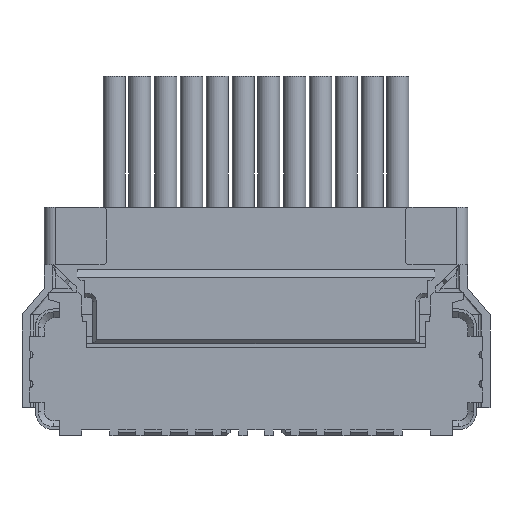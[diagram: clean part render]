
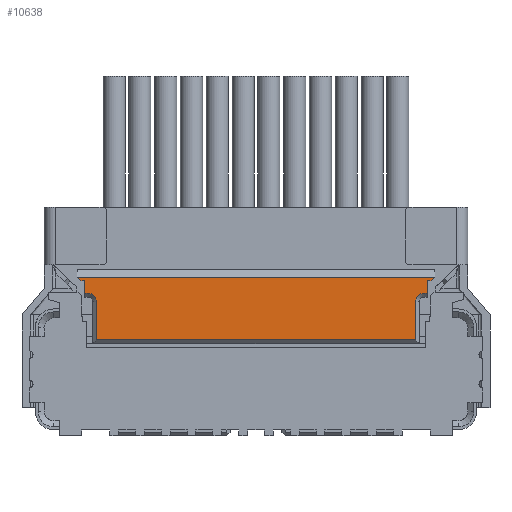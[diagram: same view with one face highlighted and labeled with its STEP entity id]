
A CAD part, front view. The second image highlights one B-rep face of the part: STEP entity #10638.
In plain terms, the highlighted planar face has unit normal (0, -1, 0).
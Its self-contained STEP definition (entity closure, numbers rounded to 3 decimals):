
#171 = CARTESIAN_POINT ( 'NONE',  ( -1.4, 0.05, 1.25 ) ) ;
#186 = AXIS2_PLACEMENT_3D ( 'NONE', #11017, #15336, #2807 ) ;
#359 = CARTESIAN_POINT ( 'NONE',  ( -4.79, 0.05, 0.92 ) ) ;
#488 = DIRECTION ( 'NONE',  ( -1., 0., 0. ) ) ;
#518 = EDGE_CURVE ( 'NONE', #9657, #4556, #2695, .T. ) ;
#741 = ORIENTED_EDGE ( 'NONE', *, *, #12689, .F. ) ;
#754 = LINE ( 'NONE', #2133, #13271 ) ;
#864 = VECTOR ( 'NONE', #5798, 1000. ) ;
#989 = ORIENTED_EDGE ( 'NONE', *, *, #12353, .T. ) ;
#1306 = VERTEX_POINT ( 'NONE', #8684 ) ;
#1750 = EDGE_LOOP ( 'NONE', ( #5956, #17039, #10633, #14980, #17445, #13653, #9650, #17369, #12479, #6977, #989, #741, #5468, #13162 ) ) ;
#2133 = CARTESIAN_POINT ( 'NONE',  ( -0.46, 0.05, 0.92 ) ) ;
#2172 = DIRECTION ( 'NONE',  ( 0., 0., -1. ) ) ;
#2201 = DIRECTION ( 'NONE',  ( 1., 0., 0. ) ) ;
#2412 = VERTEX_POINT ( 'NONE', #8410 ) ;
#2695 = LINE ( 'NONE', #13939, #3156 ) ;
#2807 = DIRECTION ( 'NONE',  ( 0., 0., -1. ) ) ;
#2985 = LINE ( 'NONE', #8622, #5671 ) ;
#3156 = VECTOR ( 'NONE', #9538, 1000. ) ;
#3417 = CARTESIAN_POINT ( 'NONE',  ( -5., 0.05, 1.2 ) ) ;
#3467 = VECTOR ( 'NONE', #18171, 1000. ) ;
#3771 = VECTOR ( 'NONE', #12342, 1000. ) ;
#4255 = VERTEX_POINT ( 'NONE', #9608 ) ;
#4461 = VERTEX_POINT ( 'NONE', #13530 ) ;
#4556 = VERTEX_POINT ( 'NONE', #17934 ) ;
#4605 = DIRECTION ( 'NONE',  ( 0., 0., 1. ) ) ;
#4778 = VECTOR ( 'NONE', #10293, 1000. ) ;
#4858 = DIRECTION ( 'NONE',  ( 0., 1., 0. ) ) ;
#4995 = CARTESIAN_POINT ( 'NONE',  ( -4.9, 0.05, 1.03 ) ) ;
#5283 = DIRECTION ( 'NONE',  ( 1., 0., 0. ) ) ;
#5468 = ORIENTED_EDGE ( 'NONE', *, *, #9656, .F. ) ;
#5671 = VECTOR ( 'NONE', #488, 1000. ) ;
#5798 = DIRECTION ( 'NONE',  ( -1., 0., 0. ) ) ;
#5956 = ORIENTED_EDGE ( 'NONE', *, *, #8551, .T. ) ;
#6154 = CARTESIAN_POINT ( 'NONE',  ( -4.95, 0.05, 1.2 ) ) ;
#6192 = CARTESIAN_POINT ( 'NONE',  ( -0.35, 0.05, 1.03 ) ) ;
#6272 = VERTEX_POINT ( 'NONE', #6154 ) ;
#6278 = EDGE_CURVE ( 'NONE', #8518, #1306, #14427, .T. ) ;
#6329 = DIRECTION ( 'NONE',  ( -0.707, 0., 0.707 ) ) ;
#6451 = CIRCLE ( 'NONE', #10558, 0.11 ) ;
#6490 = CARTESIAN_POINT ( 'NONE',  ( -1.16, 0.05, 0.4 ) ) ;
#6562 = VERTEX_POINT ( 'NONE', #15737 ) ;
#6963 = EDGE_CURVE ( 'NONE', #6272, #15873, #2985, .T. ) ;
#6977 = ORIENTED_EDGE ( 'NONE', *, *, #6963, .F. ) ;
#7329 = VERTEX_POINT ( 'NONE', #11893 ) ;
#7715 = CARTESIAN_POINT ( 'NONE',  ( -5., 0.05, 1.2 ) ) ;
#7768 = EDGE_CURVE ( 'NONE', #14730, #1306, #13243, .T. ) ;
#7779 = VECTOR ( 'NONE', #2201, 1000. ) ;
#8331 = EDGE_CURVE ( 'NONE', #8518, #9657, #14395, .T. ) ;
#8410 = CARTESIAN_POINT ( 'NONE',  ( -4.79, 0.05, 0.92 ) ) ;
#8423 = LINE ( 'NONE', #16692, #3467 ) ;
#8518 = VERTEX_POINT ( 'NONE', #9528 ) ;
#8551 = EDGE_CURVE ( 'NONE', #4461, #14241, #11074, .T. ) ;
#8622 = CARTESIAN_POINT ( 'NONE',  ( -4.95, 0.05, 1.2 ) ) ;
#8684 = CARTESIAN_POINT ( 'NONE',  ( -0.3, 0.05, 1.03 ) ) ;
#9091 = LINE ( 'NONE', #7715, #18000 ) ;
#9221 = CARTESIAN_POINT ( 'NONE',  ( -0.25, 0.05, 1.03 ) ) ;
#9241 = CARTESIAN_POINT ( 'NONE',  ( -5., 0.05, 1.03 ) ) ;
#9528 = CARTESIAN_POINT ( 'NONE',  ( -0.3, 0.05, 1.2 ) ) ;
#9538 = DIRECTION ( 'NONE',  ( 0.707, 0., 0.707 ) ) ;
#9608 = CARTESIAN_POINT ( 'NONE',  ( -0.46, 0.05, 0.92 ) ) ;
#9650 = ORIENTED_EDGE ( 'NONE', *, *, #518, .T. ) ;
#9656 = EDGE_CURVE ( 'NONE', #2412, #12685, #10459, .T. ) ;
#9657 = VERTEX_POINT ( 'NONE', #13657 ) ;
#9736 = FACE_OUTER_BOUND ( 'NONE', #1750, .T. ) ;
#10293 = DIRECTION ( 'NONE',  ( 0., 0., -1. ) ) ;
#10307 = EDGE_CURVE ( 'NONE', #4461, #2412, #10405, .T. ) ;
#10405 = LINE ( 'NONE', #359, #13402 ) ;
#10459 = CIRCLE ( 'NONE', #14271, 0.11 ) ;
#10558 = AXIS2_PLACEMENT_3D ( 'NONE', #17551, #4858, #2172 ) ;
#10633 = ORIENTED_EDGE ( 'NONE', *, *, #11451, .T. ) ;
#10638 = ADVANCED_FACE ( 'NONE', ( #9736 ), #16627, .T. ) ;
#11017 = CARTESIAN_POINT ( 'NONE',  ( -1.4, 0.05, 0. ) ) ;
#11074 = LINE ( 'NONE', #6490, #16598 ) ;
#11166 = DIRECTION ( 'NONE',  ( 0., -1., 0. ) ) ;
#11451 = EDGE_CURVE ( 'NONE', #4255, #14730, #6451, .T. ) ;
#11893 = CARTESIAN_POINT ( 'NONE',  ( -4.95, 0.05, 1.03 ) ) ;
#12342 = DIRECTION ( 'NONE',  ( -1., 0., 0. ) ) ;
#12353 = EDGE_CURVE ( 'NONE', #6272, #7329, #8423, .T. ) ;
#12479 = ORIENTED_EDGE ( 'NONE', *, *, #16703, .F. ) ;
#12656 = CARTESIAN_POINT ( 'NONE',  ( -0.3, 0.05, 1.2 ) ) ;
#12685 = VERTEX_POINT ( 'NONE', #4995 ) ;
#12689 = EDGE_CURVE ( 'NONE', #12685, #7329, #16205, .T. ) ;
#12783 = LINE ( 'NONE', #171, #864 ) ;
#13162 = ORIENTED_EDGE ( 'NONE', *, *, #10307, .F. ) ;
#13187 = CARTESIAN_POINT ( 'NONE',  ( -4.9, 0.05, 0.92 ) ) ;
#13243 = LINE ( 'NONE', #9221, #7779 ) ;
#13271 = VECTOR ( 'NONE', #13734, 1000. ) ;
#13402 = VECTOR ( 'NONE', #4605, 1000. ) ;
#13530 = CARTESIAN_POINT ( 'NONE',  ( -4.79, 0.05, 0.4 ) ) ;
#13622 = EDGE_CURVE ( 'NONE', #4556, #6562, #12783, .T. ) ;
#13653 = ORIENTED_EDGE ( 'NONE', *, *, #8331, .T. ) ;
#13657 = CARTESIAN_POINT ( 'NONE',  ( -0.25, 0.05, 1.2 ) ) ;
#13734 = DIRECTION ( 'NONE',  ( 0., 0., 1. ) ) ;
#13939 = CARTESIAN_POINT ( 'NONE',  ( -0.25, 0.05, 1.2 ) ) ;
#14241 = VERTEX_POINT ( 'NONE', #16429 ) ;
#14271 = AXIS2_PLACEMENT_3D ( 'NONE', #13187, #11166, #15036 ) ;
#14395 = LINE ( 'NONE', #12656, #17464 ) ;
#14427 = LINE ( 'NONE', #17368, #4778 ) ;
#14730 = VERTEX_POINT ( 'NONE', #6192 ) ;
#14892 = EDGE_CURVE ( 'NONE', #14241, #4255, #754, .T. ) ;
#14980 = ORIENTED_EDGE ( 'NONE', *, *, #7768, .T. ) ;
#15036 = DIRECTION ( 'NONE',  ( 0., 0., -1. ) ) ;
#15336 = DIRECTION ( 'NONE',  ( 0., -1., 0. ) ) ;
#15737 = CARTESIAN_POINT ( 'NONE',  ( -5.05, 0.05, 1.25 ) ) ;
#15873 = VERTEX_POINT ( 'NONE', #3417 ) ;
#16205 = LINE ( 'NONE', #9241, #3771 ) ;
#16429 = CARTESIAN_POINT ( 'NONE',  ( -0.46, 0.05, 0.4 ) ) ;
#16598 = VECTOR ( 'NONE', #5283, 1000. ) ;
#16627 = PLANE ( 'NONE',  #186 ) ;
#16692 = CARTESIAN_POINT ( 'NONE',  ( -4.95, 0.05, 1.03 ) ) ;
#16703 = EDGE_CURVE ( 'NONE', #15873, #6562, #9091, .T. ) ;
#16796 = DIRECTION ( 'NONE',  ( 1., 0., 0. ) ) ;
#17039 = ORIENTED_EDGE ( 'NONE', *, *, #14892, .T. ) ;
#17368 = CARTESIAN_POINT ( 'NONE',  ( -0.3, 0.05, 1.03 ) ) ;
#17369 = ORIENTED_EDGE ( 'NONE', *, *, #13622, .T. ) ;
#17445 = ORIENTED_EDGE ( 'NONE', *, *, #6278, .F. ) ;
#17464 = VECTOR ( 'NONE', #16796, 1000. ) ;
#17551 = CARTESIAN_POINT ( 'NONE',  ( -0.35, 0.05, 0.92 ) ) ;
#17934 = CARTESIAN_POINT ( 'NONE',  ( -0.2, 0.05, 1.25 ) ) ;
#18000 = VECTOR ( 'NONE', #6329, 1000. ) ;
#18171 = DIRECTION ( 'NONE',  ( 0., 0., -1. ) ) ;
